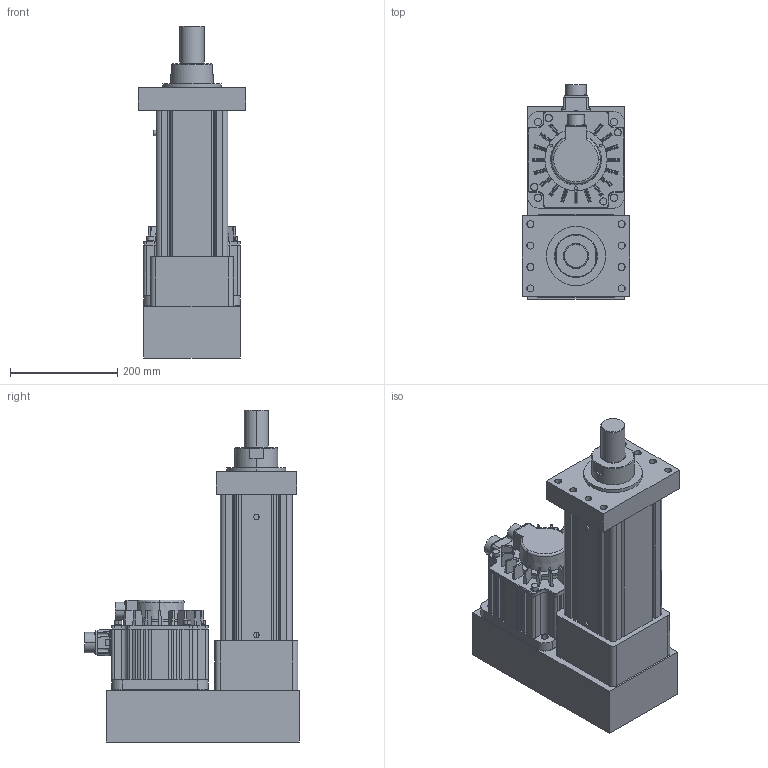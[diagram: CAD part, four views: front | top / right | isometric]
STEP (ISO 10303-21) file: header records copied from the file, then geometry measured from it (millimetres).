
FILE_DESCRIPTION (( 'STEP AP203' ), '1' );
FILE_NAME ('S5殏殿ヶ楊擘假蚾.STEP', '2024-08-16T07:16:44', ( '' ), ( '' ), 'SwSTEP 2.0', 'SolidWorks 2018', '' );
FILE_SCHEMA (( 'CONFIG_CONTROL_DESIGN' ));
Length unit declared in the file: millimetre
Products named in the file (3): S5殏殿ヶ楊擘; ECMA-EX1820RS-180框號系列機種-2KW中慣量系列; S5殏殿ヶ楊擘假蚾
Assembly tree (2 placements, depth 2):
  S5殏殿ヶ楊擘假蚾
    S5殏殿ヶ楊擘
    ECMA-EX1820RS-180框號系列機種-2KW中慣量系列
Bounding box: 200 x 400.02 x 619 mm (x, y, z)
Volume: 15014119 mm3; surface area: 1060282.9 mm2
Topology: 3 solids, 15 shells, 945 faces, 2249 edges, 1421 vertices
Faces by surface type: plane 494, cylinder 346, cone 62, bspline 27, torus 16
Entity records: 29539 total; most frequent: CARTESIAN_POINT 7258, DIRECTION 4594, ORIENTED_EDGE 4494, EDGE_CURVE 2247, AXIS2_PLACEMENT_3D 1617, VERTEX_POINT 1421, VECTOR 1360, LINE 1360
